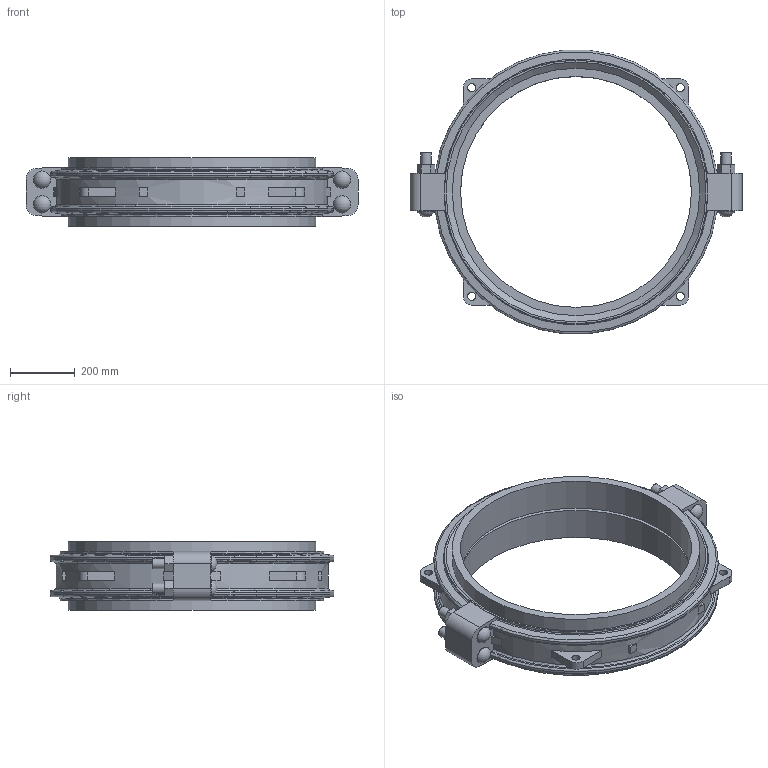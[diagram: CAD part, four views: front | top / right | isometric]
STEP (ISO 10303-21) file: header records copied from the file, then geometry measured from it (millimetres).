
FILE_DESCRIPTION(/* description */ ('VIC COUPLING FLEX STYLE W77 AGS VIC-RING ','CAx-IF Rec.Pracs.---Representation and Presentation of Product Manufacturing Information (PMI)---4.0---2014-10-13'),/* implementation_level */ '2;1');
FILE_NAME(/* name */ 'C:\Users\Vjadhav\AppData\Roaming\Autodesk\ApplicationPlugins\Victaulic.Temp\A52\Victaulic_Vic-Ring_Coupling Flexible_Style W77 (AGR)_30 (750).stp',/* time_stamp */ '2021-12-20T11:05:28+06:00',/* author */ ('Vjadhav'),/* organization */ ('Victaulic'),/* preprocessor_version */ 'ST-DEVELOPER v17.2',/* originating_system */ 'Autodesk Inventor 2019',/* authorisation */ '');
FILE_SCHEMA (('AP242_MANAGED_MODEL_BASED_3D_ENGINEERING_MIM_LF { 1 0 10303 442 1 1 4 }'));
Length unit declared in the file: inch
Products named in the file (3): W77 VR-30.0; W77 VR-30.0_1; W77 VR-30.0_2
Assembly tree (3 placements, depth 2):
  W77 VR-30.0
    W77 VR-30.0_1
    W77 VR-30.0_2  x2
Bounding box: 1022.35 x 873.16 x 211.84 mm (x, y, z)
Volume: 31514981.7 mm3; surface area: 2536114.8 mm2
Topology: 3 solids, 7 shells, 187 faces, 491 edges, 340 vertices
Faces by surface type: plane 110, cylinder 47, torus 16, cone 10, sphere 4
Full cylindrical faces by diameter (mm): 25.4 x4, 31.75 x8, 53.162 x4, 711.2 x2, 742.95 x1, 762 x4, 811.784 x2
Entity records: 6491 total; most frequent: CARTESIAN_POINT 1514, DIRECTION 987, ORIENTED_EDGE 962, EDGE_CURVE 481, AXIS2_PLACEMENT_3D 365, VERTEX_POINT 332, LINE 257, VECTOR 257
